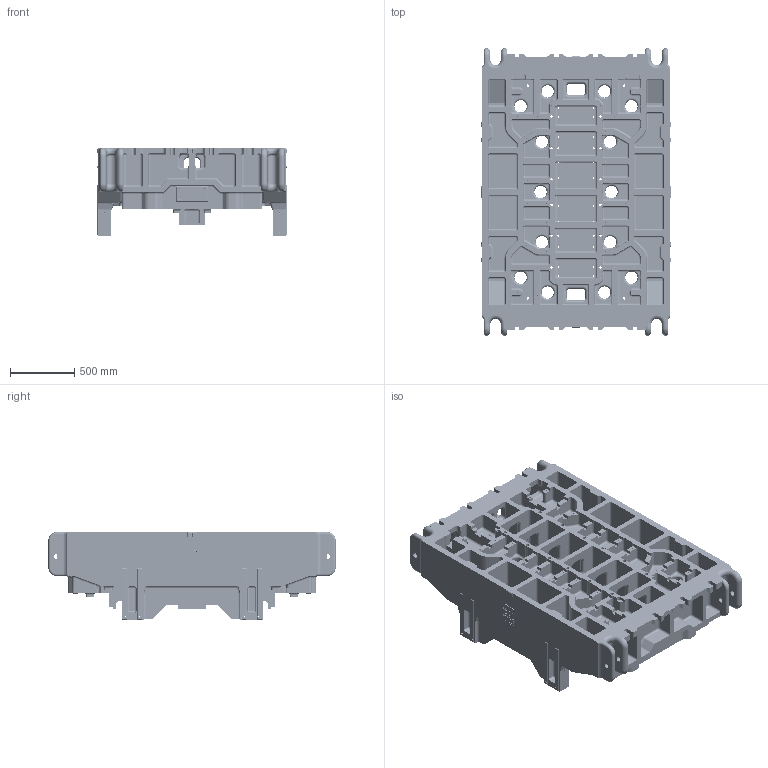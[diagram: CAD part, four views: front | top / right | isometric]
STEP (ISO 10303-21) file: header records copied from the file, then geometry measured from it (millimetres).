
FILE_DESCRIPTION(/* description */ (''),/* implementation_level */ '2;1');
FILE_NAME(/* name */ '170_Odlew gorny.stp',/* time_stamp */ '2021-06-30T15:39:48+02:00',/* author */ (''),/* organization */ (''),/* preprocessor_version */ 'ST-DEVELOPER v16',/* originating_system */ 'SIEMENS PLM Software NX 10.0',/* authorisation */ '');
FILE_SCHEMA (('AUTOMOTIVE_DESIGN { 1 0 10303 214 3 1 1 1 }'));
Products named in the file (1): 170_Odlew gorny
Bounding box: 1470 x 2230 x 680 mm (x, y, z)
Volume: 563251706.9 mm3; surface area: 24178240.6 mm2
Topology: 9 solids, 9 shells, 5302 faces, 14141 edges, 8736 vertices
Faces by surface type: cylinder 1878, plane 1842, bspline 562, torus 396, sphere 308, cone 213, extrusion 103
Full cylindrical faces by diameter (mm): 8.5 x102, 10.3 x64, 12 x4, 14 x38, 16 x2, 18 x16, 26 x16, 42 x8, 52 x16, 95 x14
Entity records: 187426 total; most frequent: CARTESIAN_POINT 52422, DIRECTION 25768, ORIENTED_EDGE 24686, EDGE_CURVE 12343, AXIS2_PLACEMENT_3D 9859, VERTEX_POINT 7816, EDGE_LOOP 6148, VECTOR 6050
